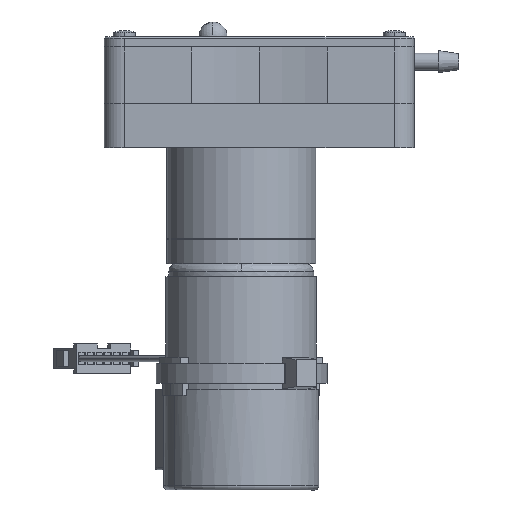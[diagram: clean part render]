
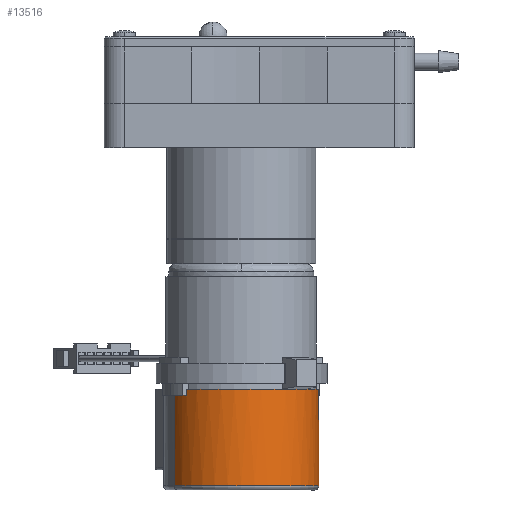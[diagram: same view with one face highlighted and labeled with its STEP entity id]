
A CAD part, left-side view. The second image highlights one B-rep face of the part: STEP entity #13516.
In plain terms, the highlighted cylindrical face has radius 19.25 mm (diameter 38.5 mm), a partial arc.
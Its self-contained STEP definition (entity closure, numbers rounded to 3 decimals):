
#550 = DIRECTION ( 'NONE',  ( 0., 0., 1. ) ) ;
#882 = CYLINDRICAL_SURFACE ( 'NONE', #15444, 19.25 ) ;
#942 = DIRECTION ( 'NONE',  ( -1., 0., 0. ) ) ;
#976 = AXIS2_PLACEMENT_3D ( 'NONE', #9718, #12278, #942 ) ;
#1077 = VERTEX_POINT ( 'NONE', #13238 ) ;
#1286 = EDGE_CURVE ( 'NONE', #1077, #13796, #14875, .T. ) ;
#1291 = DIRECTION ( 'NONE',  ( 0., 0., -1. ) ) ;
#1435 = VERTEX_POINT ( 'NONE', #12765 ) ;
#1565 = EDGE_LOOP ( 'NONE', ( #8944, #8521, #10362, #12532, #10052, #6445, #11906, #11653 ) ) ;
#1766 = CIRCLE ( 'NONE', #976, 19.25 ) ;
#1838 = EDGE_CURVE ( 'NONE', #1435, #7445, #5891, .T. ) ;
#1845 = LINE ( 'NONE', #6870, #3348 ) ;
#2175 = DIRECTION ( 'NONE',  ( 1., 0., 0. ) ) ;
#2347 = CARTESIAN_POINT ( 'NONE',  ( 0., 0., 25. ) ) ;
#2378 = CARTESIAN_POINT ( 'NONE',  ( 0., 0., 25. ) ) ;
#2825 = DIRECTION ( 'NONE',  ( 0., 0., 1. ) ) ;
#3036 = DIRECTION ( 'NONE',  ( 0., 0., -1. ) ) ;
#3348 = VECTOR ( 'NONE', #2825, 1000. ) ;
#3368 = CARTESIAN_POINT ( 'NONE',  ( 18.589, -5., 25. ) ) ;
#3387 = AXIS2_PLACEMENT_3D ( 'NONE', #5452, #10491, #9258 ) ;
#3663 = EDGE_CURVE ( 'NONE', #15797, #13796, #4010, .T. ) ;
#3997 = EDGE_CURVE ( 'NONE', #4735, #13942, #1766, .T. ) ;
#4010 = LINE ( 'NONE', #10214, #8618 ) ;
#4280 = CARTESIAN_POINT ( 'NONE',  ( 0., 0., 1. ) ) ;
#4281 = LINE ( 'NONE', #14356, #6255 ) ;
#4363 = DIRECTION ( 'NONE',  ( 1., 0., 0. ) ) ;
#4710 = CIRCLE ( 'NONE', #3387, 19.25 ) ;
#4735 = VERTEX_POINT ( 'NONE', #6254 ) ;
#5247 = LINE ( 'NONE', #6487, #11437 ) ;
#5452 = CARTESIAN_POINT ( 'NONE',  ( 0., 0., 23.5 ) ) ;
#5891 = CIRCLE ( 'NONE', #10117, 19.25 ) ;
#6254 = CARTESIAN_POINT ( 'NONE',  ( -19.25, 0., 23.5 ) ) ;
#6255 = VECTOR ( 'NONE', #3036, 1000. ) ;
#6445 = ORIENTED_EDGE ( 'NONE', *, *, #3997, .F. ) ;
#6487 = CARTESIAN_POINT ( 'NONE',  ( -18.589, -5., 23.5 ) ) ;
#6870 = CARTESIAN_POINT ( 'NONE',  ( 18.589, -5., 23.5 ) ) ;
#6948 = CARTESIAN_POINT ( 'NONE',  ( 18.589, -5., 23.5 ) ) ;
#7395 = CARTESIAN_POINT ( 'NONE',  ( -18.589, -5., 23.5 ) ) ;
#7445 = VERTEX_POINT ( 'NONE', #3368 ) ;
#7580 = DIRECTION ( 'NONE',  ( -1., 0., 0. ) ) ;
#8521 = ORIENTED_EDGE ( 'NONE', *, *, #11488, .F. ) ;
#8618 = VECTOR ( 'NONE', #14096, 1000. ) ;
#8944 = ORIENTED_EDGE ( 'NONE', *, *, #3663, .F. ) ;
#9166 = EDGE_CURVE ( 'NONE', #9218, #7445, #1845, .T. ) ;
#9218 = VERTEX_POINT ( 'NONE', #6948 ) ;
#9258 = DIRECTION ( 'NONE',  ( -1., 0., 0. ) ) ;
#9305 = CARTESIAN_POINT ( 'NONE',  ( 19.25, 0., 1. ) ) ;
#9718 = CARTESIAN_POINT ( 'NONE',  ( 0., 0., 23.5 ) ) ;
#10052 = ORIENTED_EDGE ( 'NONE', *, *, #13675, .F. ) ;
#10117 = AXIS2_PLACEMENT_3D ( 'NONE', #2347, #11097, #2175 ) ;
#10214 = CARTESIAN_POINT ( 'NONE',  ( 19.25, 0., 25. ) ) ;
#10362 = ORIENTED_EDGE ( 'NONE', *, *, #9166, .T. ) ;
#10421 = CARTESIAN_POINT ( 'NONE',  ( 19.25, 0., 23.5 ) ) ;
#10491 = DIRECTION ( 'NONE',  ( 0., 0., 1. ) ) ;
#10882 = EDGE_CURVE ( 'NONE', #4735, #1077, #4281, .T. ) ;
#11097 = DIRECTION ( 'NONE',  ( 0., 0., 1. ) ) ;
#11437 = VECTOR ( 'NONE', #12772, 1000. ) ;
#11488 = EDGE_CURVE ( 'NONE', #9218, #15797, #4710, .T. ) ;
#11653 = ORIENTED_EDGE ( 'NONE', *, *, #1286, .T. ) ;
#11906 = ORIENTED_EDGE ( 'NONE', *, *, #10882, .T. ) ;
#12278 = DIRECTION ( 'NONE',  ( 0., 0., 1. ) ) ;
#12532 = ORIENTED_EDGE ( 'NONE', *, *, #1838, .F. ) ;
#12765 = CARTESIAN_POINT ( 'NONE',  ( -18.589, -5., 25. ) ) ;
#12772 = DIRECTION ( 'NONE',  ( 0., 0., 1. ) ) ;
#13238 = CARTESIAN_POINT ( 'NONE',  ( -19.25, 0., 1. ) ) ;
#13516 = ADVANCED_FACE ( 'NONE', ( #16034 ), #882, .T. ) ;
#13675 = EDGE_CURVE ( 'NONE', #13942, #1435, #5247, .T. ) ;
#13796 = VERTEX_POINT ( 'NONE', #9305 ) ;
#13942 = VERTEX_POINT ( 'NONE', #7395 ) ;
#14096 = DIRECTION ( 'NONE',  ( 0., 0., -1. ) ) ;
#14356 = CARTESIAN_POINT ( 'NONE',  ( -19.25, 0., 25. ) ) ;
#14875 = CIRCLE ( 'NONE', #15407, 19.25 ) ;
#15407 = AXIS2_PLACEMENT_3D ( 'NONE', #4280, #550, #4363 ) ;
#15444 = AXIS2_PLACEMENT_3D ( 'NONE', #2378, #1291, #7580 ) ;
#15797 = VERTEX_POINT ( 'NONE', #10421 ) ;
#16034 = FACE_OUTER_BOUND ( 'NONE', #1565, .T. ) ;
